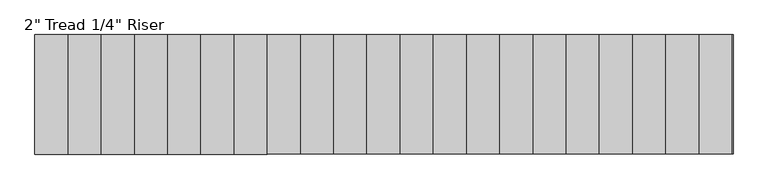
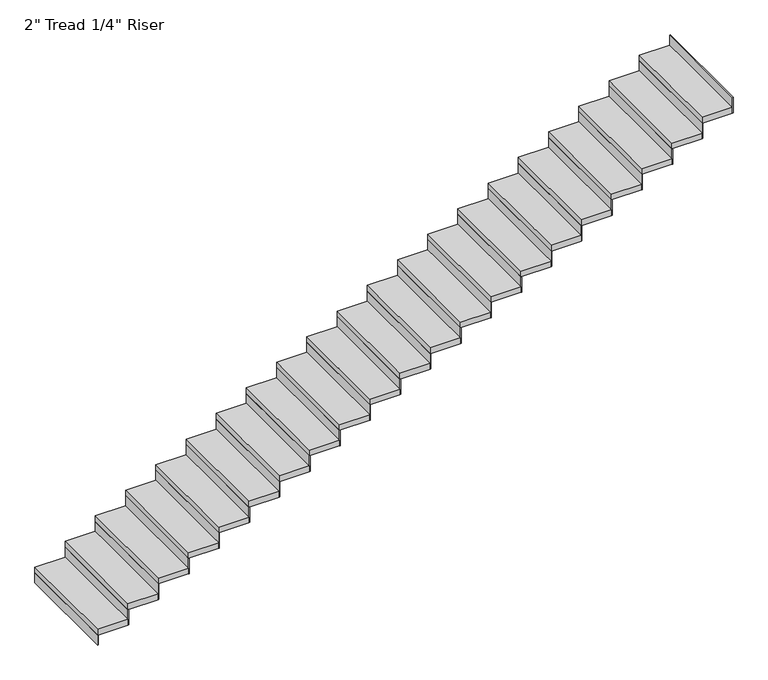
"""IFC4 building model written with IfcOpenShell, lengths in millimetres: stair flight geometry."""

from ifc_helpers import new_model, si_unit, frame, origin, origin_with_axes, place, context, project, spatial, polyline, outline, extrude, source, transform, mapped, element, save


def stair_flight_2737e0a9(model_context):
    return source(origin(), model_context, "Body", "SweptSolid", [
        extrude(outline(polyline([(-14491.9069957, 15846.0395941), (-14498.2569957, 15846.0395941), (-14498.2569957, 16760.4395941), (-14491.9069957, 16760.4395941), (-14491.9069957, 15846.0395941)])), origin_with_axes(), (0.0, 0.0, 1.0), 87.7454545),
        extrude(outline(polyline([(-14244.2569957, 16760.4395941), (-14244.2569957, 15846.0395941), (-14498.2569957, 15846.0395941), (-14498.2569957, 16760.4395941), (-14244.2569957, 16760.4395941)])), frame((0.0, 0.0, 87.7454545), z_axis=(0.0, 0.0, 1.0), x_axis=(1.0, 0.0, 0.0)), (0.0, 0.0, 1.0), 50.8),
        extrude(outline(polyline([(-14237.9069957, 15846.0395941), (-14244.2569957, 15846.0395941), (-14244.2569957, 16760.4395941), (-14237.9069957, 16760.4395941), (-14237.9069957, 15846.0395941)])), frame((0.0, 0.0, 87.7454545), z_axis=(0.0, 0.0, 1.0), x_axis=(1.0, 0.0, 0.0)), (0.0, 0.0, 1.0), 138.5454545),
        extrude(outline(polyline([(-13990.2569957, 16760.4395941), (-13990.2569957, 15846.0395941), (-14244.2569957, 15846.0395941), (-14244.2569957, 16760.4395941), (-13990.2569957, 16760.4395941)])), frame((0.0, 0.0, 226.2909091), z_axis=(0.0, 0.0, 1.0), x_axis=(1.0, 0.0, 0.0)), (0.0, 0.0, 1.0), 50.8),
        extrude(outline(polyline([(-13983.9069957, 15846.0395941), (-13990.2569957, 15846.0395941), (-13990.2569957, 16760.4395941), (-13983.9069957, 16760.4395941), (-13983.9069957, 15846.0395941)])), frame((0.0, 0.0, 226.2909091), z_axis=(0.0, 0.0, 1.0), x_axis=(1.0, 0.0, 0.0)), (0.0, 0.0, 1.0), 138.5454545),
        extrude(outline(polyline([(-13736.2569957, 16760.4395941), (-13736.2569957, 15846.0395941), (-13990.2569957, 15846.0395941), (-13990.2569957, 16760.4395941), (-13736.2569957, 16760.4395941)])), frame((0.0, 0.0, 364.8363636), z_axis=(0.0, 0.0, 1.0), x_axis=(1.0, 0.0, 0.0)), (0.0, 0.0, 1.0), 50.8),
        extrude(outline(polyline([(-13729.9069957, 15846.0395941), (-13736.2569957, 15846.0395941), (-13736.2569957, 16760.4395941), (-13729.9069957, 16760.4395941), (-13729.9069957, 15846.0395941)])), frame((0.0, 0.0, 364.8363636), z_axis=(0.0, 0.0, 1.0), x_axis=(1.0, 0.0, 0.0)), (0.0, 0.0, 1.0), 138.5454545),
        extrude(outline(polyline([(-13482.2569957, 16760.4395941), (-13482.2569957, 15846.0395941), (-13736.2569957, 15846.0395941), (-13736.2569957, 16760.4395941), (-13482.2569957, 16760.4395941)])), frame((0.0, 0.0, 503.3818182), z_axis=(0.0, 0.0, 1.0), x_axis=(1.0, 0.0, 0.0)), (0.0, 0.0, 1.0), 50.8),
        extrude(outline(polyline([(-13475.9069957, 15846.0395941), (-13482.2569957, 15846.0395941), (-13482.2569957, 16760.4395941), (-13475.9069957, 16760.4395941), (-13475.9069957, 15846.0395941)])), frame((0.0, 0.0, 503.3818182), z_axis=(0.0, 0.0, 1.0), x_axis=(1.0, 0.0, 0.0)), (0.0, 0.0, 1.0), 138.5454545),
        extrude(outline(polyline([(-13228.2569957, 16760.4395941), (-13228.2569957, 15846.0395941), (-13482.2569957, 15846.0395941), (-13482.2569957, 16760.4395941), (-13228.2569957, 16760.4395941)])), frame((0.0, 0.0, 641.9272727), z_axis=(0.0, 0.0, 1.0), x_axis=(1.0, 0.0, 0.0)), (0.0, 0.0, 1.0), 50.8),
        extrude(outline(polyline([(-13221.9069957, 15846.0395941), (-13228.2569957, 15846.0395941), (-13228.2569957, 16760.4395941), (-13221.9069957, 16760.4395941), (-13221.9069957, 15846.0395941)])), frame((0.0, 0.0, 641.9272727), z_axis=(0.0, 0.0, 1.0), x_axis=(1.0, 0.0, 0.0)), (0.0, 0.0, 1.0), 138.5454545),
        extrude(outline(polyline([(-12974.2569957, 16760.4395941), (-12974.2569957, 15846.0395941), (-13228.2569957, 15846.0395941), (-13228.2569957, 16760.4395941), (-12974.2569957, 16760.4395941)])), frame((0.0, 0.0, 780.4727273), z_axis=(0.0, 0.0, 1.0), x_axis=(1.0, 0.0, 0.0)), (0.0, 0.0, 1.0), 50.8),
        extrude(outline(polyline([(-12967.9069957, 15846.0395941), (-12974.2569957, 15846.0395941), (-12974.2569957, 16760.4395941), (-12967.9069957, 16760.4395941), (-12967.9069957, 15846.0395941)])), frame((0.0, 0.0, 780.4727273), z_axis=(0.0, 0.0, 1.0), x_axis=(1.0, 0.0, 0.0)), (0.0, 0.0, 1.0), 138.5454545),
        extrude(outline(polyline([(-12720.2569957, 16760.4395941), (-12720.2569957, 15846.0395941), (-12974.2569957, 15846.0395941), (-12974.2569957, 16760.4395941), (-12720.2569957, 16760.4395941)])), frame((0.0, 0.0, 919.0181818), z_axis=(0.0, 0.0, 1.0), x_axis=(1.0, 0.0, 0.0)), (0.0, 0.0, 1.0), 50.8),
        extrude(outline(polyline([(-12713.9069957, 15846.0395941), (-12720.2569957, 15846.0395941), (-12720.2569957, 16760.4395941), (-12713.9069957, 16760.4395941), (-12713.9069957, 15846.0395941)])), frame((0.0, 0.0, 919.0181818), z_axis=(0.0, 0.0, 1.0), x_axis=(1.0, 0.0, 0.0)), (0.0, 0.0, 1.0), 138.5454545),
        extrude(outline(polyline([(-12466.2569957, 16760.4395941), (-12466.2569957, 15846.0395941), (-12720.2569957, 15846.0395941), (-12720.2569957, 16760.4395941), (-12466.2569957, 16760.4395941)])), frame((0.0, 0.0, 1057.5636364), z_axis=(0.0, 0.0, 1.0), x_axis=(1.0, 0.0, 0.0)), (0.0, 0.0, 1.0), 50.8),
        extrude(outline(polyline([(-12459.9069957, 15846.0395941), (-12466.2569957, 15846.0395941), (-12466.2569957, 16760.4395941), (-12459.9069957, 16760.4395941), (-12459.9069957, 15846.0395941)])), frame((0.0, 0.0, 1057.5636364), z_axis=(0.0, 0.0, 1.0), x_axis=(1.0, 0.0, 0.0)), (0.0, 0.0, 1.0), 138.5454545),
        extrude(outline(polyline([(-12212.2569957, 16760.4395941), (-12212.2569957, 15846.0395941), (-12466.2569957, 15846.0395941), (-12466.2569957, 16760.4395941), (-12212.2569957, 16760.4395941)])), frame((0.0, 0.0, 1196.1090909), z_axis=(0.0, 0.0, 1.0), x_axis=(1.0, 0.0, 0.0)), (0.0, 0.0, 1.0), 50.8),
        extrude(outline(polyline([(-12205.9069957, 15846.0395941), (-12212.2569957, 15846.0395941), (-12212.2569957, 16760.4395941), (-12205.9069957, 16760.4395941), (-12205.9069957, 15846.0395941)])), frame((0.0, 0.0, 1196.1090909), z_axis=(0.0, 0.0, 1.0), x_axis=(1.0, 0.0, 0.0)), (0.0, 0.0, 1.0), 138.5454545),
        extrude(outline(polyline([(-11958.2569957, 16760.4395941), (-11958.2569957, 15846.0395941), (-12212.2569957, 15846.0395941), (-12212.2569957, 16760.4395941), (-11958.2569957, 16760.4395941)])), frame((0.0, 0.0, 1334.6545455), z_axis=(0.0, 0.0, 1.0), x_axis=(1.0, 0.0, 0.0)), (0.0, 0.0, 1.0), 50.8),
        extrude(outline(polyline([(-11951.9069957, 15846.0395941), (-11958.2569957, 15846.0395941), (-11958.2569957, 16760.4395941), (-11951.9069957, 16760.4395941), (-11951.9069957, 15846.0395941)])), frame((0.0, 0.0, 1334.6545455), z_axis=(0.0, 0.0, 1.0), x_axis=(1.0, 0.0, 0.0)), (0.0, 0.0, 1.0), 138.5454545),
        extrude(outline(polyline([(-11704.2569957, 16760.4395941), (-11704.2569957, 15846.0395941), (-11958.2569957, 15846.0395941), (-11958.2569957, 16760.4395941), (-11704.2569957, 16760.4395941)])), frame((0.0, 0.0, 1473.2), z_axis=(0.0, 0.0, 1.0), x_axis=(1.0, 0.0, 0.0)), (0.0, 0.0, 1.0), 50.8),
        extrude(outline(polyline([(-11697.9069957, 15846.0395941), (-11704.2569957, 15846.0395941), (-11704.2569957, 16760.4395941), (-11697.9069957, 16760.4395941), (-11697.9069957, 15846.0395941)])), frame((0.0, 0.0, 1473.2), z_axis=(0.0, 0.0, 1.0), x_axis=(1.0, 0.0, 0.0)), (0.0, 0.0, 1.0), 138.5454545),
        extrude(outline(polyline([(-11450.2569957, 16760.4395941), (-11450.2569957, 15846.0395941), (-11704.2569957, 15846.0395941), (-11704.2569957, 16760.4395941), (-11450.2569957, 16760.4395941)])), frame((0.0, 0.0, 1611.7454545), z_axis=(0.0, 0.0, 1.0), x_axis=(1.0, 0.0, 0.0)), (0.0, 0.0, 1.0), 50.8),
        extrude(outline(polyline([(-11443.9069957, 15846.0395941), (-11450.2569957, 15846.0395941), (-11450.2569957, 16760.4395941), (-11443.9069957, 16760.4395941), (-11443.9069957, 15846.0395941)])), frame((0.0, 0.0, 1611.7454545), z_axis=(0.0, 0.0, 1.0), x_axis=(1.0, 0.0, 0.0)), (0.0, 0.0, 1.0), 138.5454545),
        extrude(outline(polyline([(-11196.2569957, 16760.4395941), (-11196.2569957, 15846.0395941), (-11450.2569957, 15846.0395941), (-11450.2569957, 16760.4395941), (-11196.2569957, 16760.4395941)])), frame((0.0, 0.0, 1750.2909091), z_axis=(0.0, 0.0, 1.0), x_axis=(1.0, 0.0, 0.0)), (0.0, 0.0, 1.0), 50.8),
        extrude(outline(polyline([(-11189.9069957, 15846.0395941), (-11196.2569957, 15846.0395941), (-11196.2569957, 16760.4395941), (-11189.9069957, 16760.4395941), (-11189.9069957, 15846.0395941)])), frame((0.0, 0.0, 1750.2909091), z_axis=(0.0, 0.0, 1.0), x_axis=(1.0, 0.0, 0.0)), (0.0, 0.0, 1.0), 138.5454545),
        extrude(outline(polyline([(-10942.2569957, 16760.4395941), (-10942.2569957, 15846.0395941), (-11196.2569957, 15846.0395941), (-11196.2569957, 16760.4395941), (-10942.2569957, 16760.4395941)])), frame((0.0, 0.0, 1888.8363636), z_axis=(0.0, 0.0, 1.0), x_axis=(1.0, 0.0, 0.0)), (0.0, 0.0, 1.0), 50.8),
        extrude(outline(polyline([(-10935.9069957, 15846.0395941), (-10942.2569957, 15846.0395941), (-10942.2569957, 16760.4395941), (-10935.9069957, 16760.4395941), (-10935.9069957, 15846.0395941)])), frame((0.0, 0.0, 1888.8363636), z_axis=(0.0, 0.0, 1.0), x_axis=(1.0, 0.0, 0.0)), (0.0, 0.0, 1.0), 138.5454545),
        extrude(outline(polyline([(-10688.2569957, 16760.4395941), (-10688.2569957, 15846.0395941), (-10942.2569957, 15846.0395941), (-10942.2569957, 16760.4395941), (-10688.2569957, 16760.4395941)])), frame((0.0, 0.0, 2027.3818182), z_axis=(0.0, 0.0, 1.0), x_axis=(1.0, 0.0, 0.0)), (0.0, 0.0, 1.0), 50.8),
        extrude(outline(polyline([(-10681.9069957, 15846.0395941), (-10688.2569957, 15846.0395941), (-10688.2569957, 16760.4395941), (-10681.9069957, 16760.4395941), (-10681.9069957, 15846.0395941)])), frame((0.0, 0.0, 2027.3818182), z_axis=(0.0, 0.0, 1.0), x_axis=(1.0, 0.0, 0.0)), (0.0, 0.0, 1.0), 138.5454545),
        extrude(outline(polyline([(-10434.2569957, 16760.4395941), (-10434.2569957, 15846.0395941), (-10688.2569957, 15846.0395941), (-10688.2569957, 16760.4395941), (-10434.2569957, 16760.4395941)])), frame((0.0, 0.0, 2165.9272727), z_axis=(0.0, 0.0, 1.0), x_axis=(1.0, 0.0, 0.0)), (0.0, 0.0, 1.0), 50.8),
        extrude(outline(polyline([(-10427.9069957, 15846.0395941), (-10434.2569957, 15846.0395941), (-10434.2569957, 16760.4395941), (-10427.9069957, 16760.4395941), (-10427.9069957, 15846.0395941)])), frame((0.0, 0.0, 2165.9272727), z_axis=(0.0, 0.0, 1.0), x_axis=(1.0, 0.0, 0.0)), (0.0, 0.0, 1.0), 138.5454545),
        extrude(outline(polyline([(-10180.2569957, 16760.4395941), (-10180.2569957, 15846.0395941), (-10434.2569957, 15846.0395941), (-10434.2569957, 16760.4395941), (-10180.2569957, 16760.4395941)])), frame((0.0, 0.0, 2304.4727273), z_axis=(0.0, 0.0, 1.0), x_axis=(1.0, 0.0, 0.0)), (0.0, 0.0, 1.0), 50.8),
        extrude(outline(polyline([(-10173.9069957, 15846.0395941), (-10180.2569957, 15846.0395941), (-10180.2569957, 16760.4395941), (-10173.9069957, 16760.4395941), (-10173.9069957, 15846.0395941)])), frame((0.0, 0.0, 2304.4727273), z_axis=(0.0, 0.0, 1.0), x_axis=(1.0, 0.0, 0.0)), (0.0, 0.0, 1.0), 138.5454545),
        extrude(outline(polyline([(-9926.2569957, 16760.4395941), (-9926.2569957, 15846.0395941), (-10180.2569957, 15846.0395941), (-10180.2569957, 16760.4395941), (-9926.2569957, 16760.4395941)])), frame((0.0, 0.0, 2443.0181818), z_axis=(0.0, 0.0, 1.0), x_axis=(1.0, 0.0, 0.0)), (0.0, 0.0, 1.0), 50.8),
        extrude(outline(polyline([(-9919.9069957, 15846.0395941), (-9926.2569957, 15846.0395941), (-9926.2569957, 16760.4395941), (-9919.9069957, 16760.4395941), (-9919.9069957, 15846.0395941)])), frame((0.0, 0.0, 2443.0181818), z_axis=(0.0, 0.0, 1.0), x_axis=(1.0, 0.0, 0.0)), (0.0, 0.0, 1.0), 138.5454545),
        extrude(outline(polyline([(-9672.2569957, 16760.4395941), (-9672.2569957, 15846.0395941), (-9926.2569957, 15846.0395941), (-9926.2569957, 16760.4395941), (-9672.2569957, 16760.4395941)])), frame((0.0, 0.0, 2581.5636364), z_axis=(0.0, 0.0, 1.0), x_axis=(1.0, 0.0, 0.0)), (0.0, 0.0, 1.0), 50.8),
        extrude(outline(polyline([(-9665.9069957, 15846.0395941), (-9672.2569957, 15846.0395941), (-9672.2569957, 16760.4395941), (-9665.9069957, 16760.4395941), (-9665.9069957, 15846.0395941)])), frame((0.0, 0.0, 2581.5636364), z_axis=(0.0, 0.0, 1.0), x_axis=(1.0, 0.0, 0.0)), (0.0, 0.0, 1.0), 138.5454545),
        extrude(outline(polyline([(-9418.2569957, 16760.4395941), (-9418.2569957, 15846.0395941), (-9672.2569957, 15846.0395941), (-9672.2569957, 16760.4395941), (-9418.2569957, 16760.4395941)])), frame((0.0, 0.0, 2720.1090909), z_axis=(0.0, 0.0, 1.0), x_axis=(1.0, 0.0, 0.0)), (0.0, 0.0, 1.0), 50.8),
        extrude(outline(polyline([(-9411.9069957, 15846.0395941), (-9418.2569957, 15846.0395941), (-9418.2569957, 16760.4395941), (-9411.9069957, 16760.4395941), (-9411.9069957, 15846.0395941)])), frame((0.0, 0.0, 2720.1090909), z_axis=(0.0, 0.0, 1.0), x_axis=(1.0, 0.0, 0.0)), (0.0, 0.0, 1.0), 138.5454545),
        extrude(outline(polyline([(-9157.9069957, 15846.0395941), (-9164.2569957, 15846.0395941), (-9164.2569957, 16760.4395941), (-9157.9069957, 16760.4395941), (-9157.9069957, 15846.0395941)])), frame((0.0, 0.0, 2858.6545455), z_axis=(0.0, 0.0, 1.0), x_axis=(1.0, 0.0, 0.0)), (0.0, 0.0, 1.0), 138.5454545),
        extrude(outline(polyline([(-9164.2569957, 16760.4395941), (-9164.2569957, 15846.0395941), (-9418.2569957, 15846.0395941), (-9418.2569957, 16760.4395941), (-9164.2569957, 16760.4395941)])), frame((0.0, 0.0, 2858.6545455), z_axis=(0.0, 0.0, 1.0), x_axis=(1.0, 0.0, 0.0)), (0.0, 0.0, 1.0), 50.8),
    ])


if __name__ == "__main__":
    model = new_model("IFC4")
    model_context = context("Model", 3, world=origin())
    ifc_project = project(units=[si_unit("LENGTHUNIT", "METRE", prefix="MILLI")], contexts=[model_context])
    site = spatial("IfcSite", under=ifc_project)
    building = spatial("IfcBuilding", under=site)
    placement = place(None, origin())
    stair_flight_shape = stair_flight_2737e0a9(model_context)
    element("IfcStairFlight", 1, ObjectType="2\" Tread 1/4\" Riser", at=placement, inside=building, context=model_context, shape_type="MappedRepresentation", body=[
        mapped(stair_flight_shape, transform((0.0, 0.0, 0.0), x_axis=(1.0, 0.0, 0.0), y_axis=(0.0, 1.0, 0.0), z_axis=(0.0, 0.0, 1.0))),
    ])
    save(model, "model.ifc")
